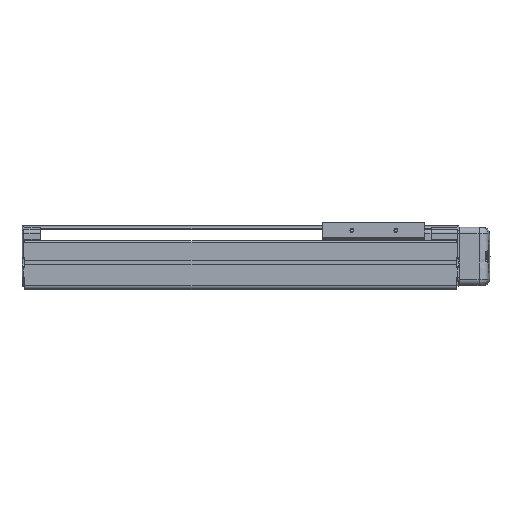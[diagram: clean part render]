
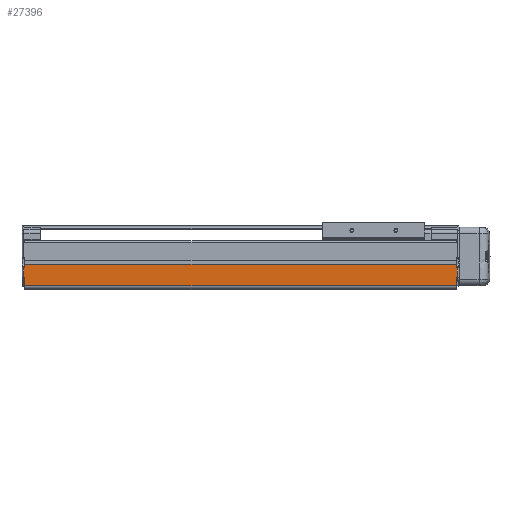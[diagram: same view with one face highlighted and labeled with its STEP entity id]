
A CAD part, top view. The second image highlights one B-rep face of the part: STEP entity #27396.
In plain terms, the highlighted planar face has unit normal (0, 0, 1).
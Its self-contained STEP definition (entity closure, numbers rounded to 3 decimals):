
#5793=DIRECTION('',(1.,0.,0.));
#5794=VECTOR('',#5793,0.7);
#5795=CARTESIAN_POINT('',(491.,14.,39.));
#5796=LINE('',#5795,#5794);
#5801=DIRECTION('',(0.,1.,0.));
#5802=VECTOR('',#5801,3.9);
#5803=CARTESIAN_POINT('',(491.,25.,39.));
#5804=LINE('',#5803,#5802);
#5805=DIRECTION('',(0.,1.,0.));
#5806=VECTOR('',#5805,9.5);
#5807=CARTESIAN_POINT('',(491.,4.5,39.));
#5808=LINE('',#5807,#5806);
#5809=DIRECTION('',(0.,-1.,0.));
#5810=VECTOR('',#5809,9.5);
#5811=CARTESIAN_POINT('',(0.,14.,39.));
#5812=LINE('',#5811,#5810);
#5813=DIRECTION('',(0.,-1.,0.));
#5814=VECTOR('',#5813,3.9);
#5815=CARTESIAN_POINT('',(0.,28.9,39.));
#5816=LINE('',#5815,#5814);
#5826=DIRECTION('',(-1.,0.,0.));
#5827=VECTOR('',#5826,0.7);
#5828=CARTESIAN_POINT('',(491.7,25.,39.));
#5829=LINE('',#5828,#5827);
#7518=DIRECTION('',(-1.,0.,0.));
#7519=VECTOR('',#7518,1.);
#7520=CARTESIAN_POINT('',(0.,25.,39.));
#7521=LINE('',#7520,#7519);
#7541=DIRECTION('',(0.,-1.,0.));
#7542=VECTOR('',#7541,11.);
#7543=CARTESIAN_POINT('',(-1.,25.,39.));
#7544=LINE('',#7543,#7542);
#7563=DIRECTION('',(1.,0.,0.));
#7564=VECTOR('',#7563,1.);
#7565=CARTESIAN_POINT('',(-1.,14.,39.));
#7566=LINE('',#7565,#7564);
#10912=DIRECTION('',(0.,1.,0.));
#10913=VECTOR('',#10912,11.);
#10914=CARTESIAN_POINT('',(491.7,14.,39.));
#10915=LINE('',#10914,#10913);
#11013=DIRECTION('',(1.,0.,0.));
#11014=VECTOR('',#11013,491.);
#11015=CARTESIAN_POINT('',(0.,4.5,39.));
#11016=LINE('',#11015,#11014);
#11209=DIRECTION('',(-1.,0.,0.));
#11210=VECTOR('',#11209,491.);
#11211=CARTESIAN_POINT('',(491.,28.9,39.));
#11212=LINE('',#11211,#11210);
#16622=CARTESIAN_POINT('',(0.,4.5,39.));
#16623=VERTEX_POINT('',#16622);
#16624=CARTESIAN_POINT('',(0.,28.9,39.));
#16626=VERTEX_POINT('',#16624);
#16674=CARTESIAN_POINT('',(491.,28.9,39.));
#16675=VERTEX_POINT('',#16674);
#16677=CARTESIAN_POINT('',(491.,4.5,39.));
#16679=VERTEX_POINT('',#16677);
#17493=CARTESIAN_POINT('',(491.7,14.,39.));
#17494=CARTESIAN_POINT('',(491.7,25.,39.));
#17495=VERTEX_POINT('',#17493);
#17496=VERTEX_POINT('',#17494);
#18530=CARTESIAN_POINT('',(-1.,25.,39.));
#18531=VERTEX_POINT('',#18530);
#18532=CARTESIAN_POINT('',(-1.,14.,39.));
#18533=VERTEX_POINT('',#18532);
#19074=CARTESIAN_POINT('',(0.,25.,39.));
#19075=VERTEX_POINT('',#19074);
#19076=CARTESIAN_POINT('',(0.,14.,39.));
#19078=VERTEX_POINT('',#19076);
#19298=CARTESIAN_POINT('',(491.,14.,39.));
#19299=VERTEX_POINT('',#19298);
#19300=CARTESIAN_POINT('',(491.,25.,39.));
#19302=VERTEX_POINT('',#19300);
#27370=CARTESIAN_POINT('',(245.5,16.7,39.));
#27371=DIRECTION('',(0.,0.,1.));
#27372=DIRECTION('',(0.,-1.,0.));
#27373=AXIS2_PLACEMENT_3D('',#27370,#27371,#27372);
#27374=PLANE('',#27373);
#27375=ORIENTED_EDGE('',*,*,#23265,.F.);
#27377=ORIENTED_EDGE('',*,*,#27376,.F.);
#27379=ORIENTED_EDGE('',*,*,#27378,.F.);
#27380=ORIENTED_EDGE('',*,*,#27362,.F.);
#27381=ORIENTED_EDGE('',*,*,#23411,.F.);
#27383=ORIENTED_EDGE('',*,*,#27382,.F.);
#27384=ORIENTED_EDGE('',*,*,#23110,.F.);
#27386=ORIENTED_EDGE('',*,*,#27385,.F.);
#27388=ORIENTED_EDGE('',*,*,#27387,.F.);
#27390=ORIENTED_EDGE('',*,*,#27389,.F.);
#27391=ORIENTED_EDGE('',*,*,#23086,.F.);
#27393=ORIENTED_EDGE('',*,*,#27392,.F.);
#27394=EDGE_LOOP('',(#27375,#27377,#27379,#27380,#27381,#27383,#27384,#27386,
#27388,#27390,#27391,#27393));
#27395=FACE_OUTER_BOUND('',#27394,.F.);
#27396=ADVANCED_FACE('',(#27395),#27374,.T.);
#23086=EDGE_CURVE('',#16626,#19075,#5816,.T.);
#23110=EDGE_CURVE('',#19078,#16623,#5812,.T.);
#23265=EDGE_CURVE('',#19302,#16675,#5804,.T.);
#23411=EDGE_CURVE('',#16679,#19299,#5808,.T.);
#27362=EDGE_CURVE('',#19299,#17495,#5796,.T.);
#27376=EDGE_CURVE('',#17496,#19302,#5829,.T.);
#27378=EDGE_CURVE('',#17495,#17496,#10915,.T.);
#27382=EDGE_CURVE('',#16623,#16679,#11016,.T.);
#27385=EDGE_CURVE('',#18533,#19078,#7566,.T.);
#27387=EDGE_CURVE('',#18531,#18533,#7544,.T.);
#27389=EDGE_CURVE('',#19075,#18531,#7521,.T.);
#27392=EDGE_CURVE('',#16675,#16626,#11212,.T.);
